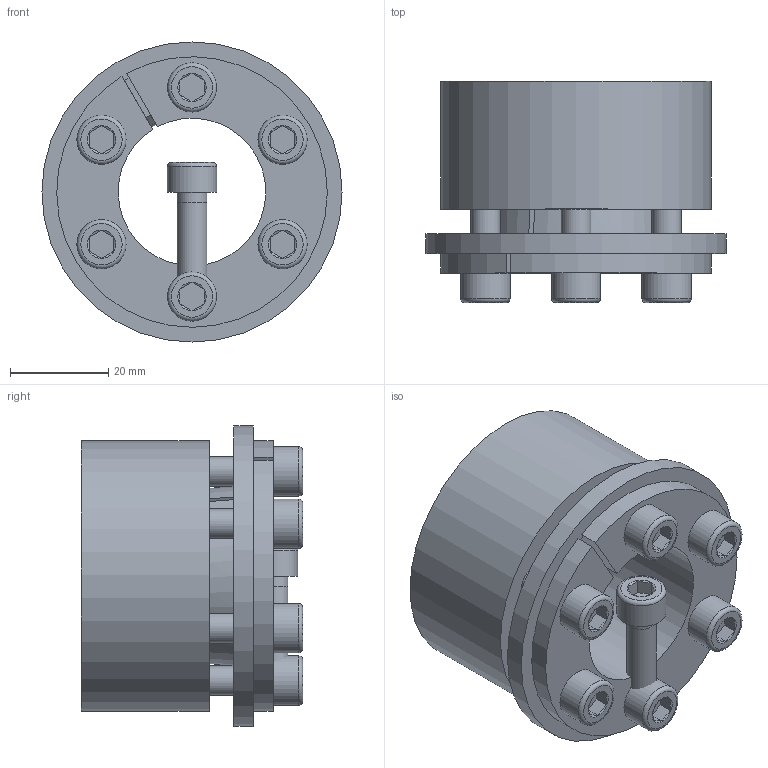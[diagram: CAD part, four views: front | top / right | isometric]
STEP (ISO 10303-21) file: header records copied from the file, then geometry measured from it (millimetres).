
FILE_DESCRIPTION( ( 'Unknown' ), '1' );
FILE_NAME( 'C:/Dokumente und Einstellungen/Sven/Desktop/homepage/cad - homepage/KBS71/KBS 71 - 30 x 55.stp', 'Unknown', ( 'Unknown' ), ( 'Unknown' ), 'XStep 1.0', 'Unknown', ' ' );
FILE_SCHEMA( ( 'automotive_design' ) );
Length unit declared in the file: millimetre
Products named in the file (3): Assem1; KBS 71 - 30 x 55; ISO EN DIN 4762 M6x25
Bounding box: 61 x 45 x 61 mm (x, y, z)
Volume: 115560.9 mm3; surface area: 48810 mm2
Topology: 9 solids, 9 shells, 247 faces, 545 edges, 328 vertices
Faces by surface type: plane 116, cylinder 60, cone 57, torus 14
Full cylindrical faces by diameter (mm): 5 x7, 6 x38, 10 x7, 61 x2
Entity records: 2071 total; most frequent: CARTESIAN_POINT 362, DIRECTION 319, ORIENTED_EDGE 260, AXIS2_PLACEMENT_3D 135, EDGE_CURVE 130, EDGE_LOOP 106, VERTEX_POINT 90, FACE_OUTER_BOUND 80
